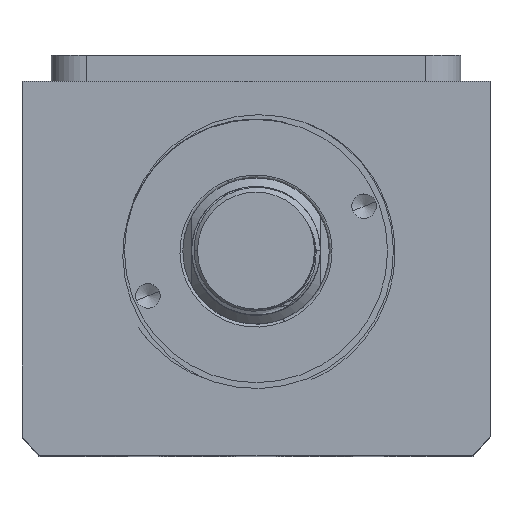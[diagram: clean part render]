
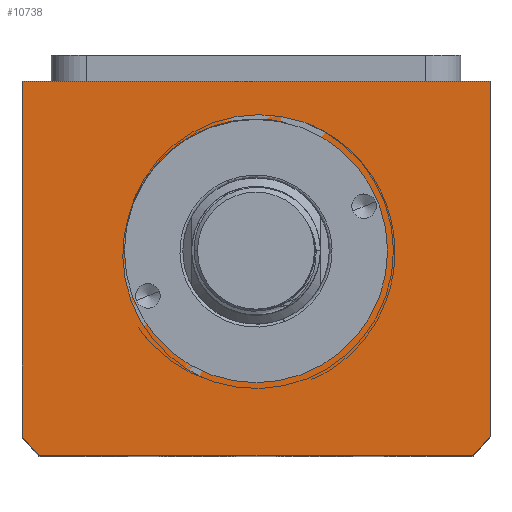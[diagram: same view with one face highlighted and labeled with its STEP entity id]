
A CAD part, top view. The second image highlights one B-rep face of the part: STEP entity #10738.
In plain terms, the highlighted planar face has unit normal (0, 0, 1).
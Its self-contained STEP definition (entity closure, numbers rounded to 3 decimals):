
#79 = CARTESIAN_POINT ( 'NONE',  ( 0., 3., 80. ) ) ;
#308 = EDGE_CURVE ( 'NONE', #5713, #9276, #3082, .T. ) ;
#319 = DIRECTION ( 'NONE',  ( 1., 0., 0. ) ) ;
#440 = FACE_OUTER_BOUND ( 'NONE', #2564, .T. ) ;
#542 = CARTESIAN_POINT ( 'NONE',  ( -40., 32., 80. ) ) ;
#634 = DIRECTION ( 'NONE',  ( -1., 0., 0. ) ) ;
#1139 = CARTESIAN_POINT ( 'NONE',  ( 0., 0., 80. ) ) ;
#1154 = DIRECTION ( 'NONE',  ( 1., 0., 0. ) ) ;
#1502 = DIRECTION ( 'NONE',  ( 0., 0., 1. ) ) ;
#1740 = CARTESIAN_POINT ( 'NONE',  ( 0., 3., 80. ) ) ;
#1769 = VECTOR ( 'NONE', #4944, 1000. ) ;
#1978 = ORIENTED_EDGE ( 'NONE', *, *, #308, .T. ) ;
#2108 = VECTOR ( 'NONE', #634, 1000. ) ;
#2149 = CIRCLE ( 'NONE', #7825, 51. ) ;
#2290 = DIRECTION ( 'NONE',  ( 0., 0., 1. ) ) ;
#2564 = EDGE_LOOP ( 'NONE', ( #4325, #7536, #1978, #7077, #3106, #6479 ) ) ;
#2588 = CIRCLE ( 'NONE', #4735, 22.5 ) ;
#2821 = DIRECTION ( 'NONE',  ( 1., 0., 0. ) ) ;
#2968 = CARTESIAN_POINT ( 'NONE',  ( -40., -32., 80. ) ) ;
#3082 = LINE ( 'NONE', #2968, #8445 ) ;
#3106 = ORIENTED_EDGE ( 'NONE', *, *, #10415, .T. ) ;
#3290 = CARTESIAN_POINT ( 'NONE',  ( -22.5, 3., 80. ) ) ;
#3742 = VERTEX_POINT ( 'NONE', #6067 ) ;
#4325 = ORIENTED_EDGE ( 'NONE', *, *, #6926, .T. ) ;
#4461 = CARTESIAN_POINT ( 'NONE',  ( -37.094, -32., 80. ) ) ;
#4735 = AXIS2_PLACEMENT_3D ( 'NONE', #8712, #2290, #9791 ) ;
#4915 = VERTEX_POINT ( 'NONE', #9721 ) ;
#4929 = VERTEX_POINT ( 'NONE', #3290 ) ;
#4944 = DIRECTION ( 'NONE',  ( 0., 1., 0. ) ) ;
#5138 = CARTESIAN_POINT ( 'NONE',  ( 37.094, -32., 80. ) ) ;
#5337 = VECTOR ( 'NONE', #13929, 1000. ) ;
#5352 = PLANE ( 'NONE',  #8391 ) ;
#5436 = DIRECTION ( 'NONE',  ( 1., 0., 0. ) ) ;
#5486 = VERTEX_POINT ( 'NONE', #7349 ) ;
#5713 = VERTEX_POINT ( 'NONE', #4461 ) ;
#6067 = CARTESIAN_POINT ( 'NONE',  ( 22.5, 3., 80. ) ) ;
#6089 = EDGE_LOOP ( 'NONE', ( #13337, #6544 ) ) ;
#6383 = CARTESIAN_POINT ( 'NONE',  ( -40., 32., 80. ) ) ;
#6479 = ORIENTED_EDGE ( 'NONE', *, *, #10333, .T. ) ;
#6544 = ORIENTED_EDGE ( 'NONE', *, *, #11982, .F. ) ;
#6891 = CARTESIAN_POINT ( 'NONE',  ( -40., -28.639, 80. ) ) ;
#6926 = EDGE_CURVE ( 'NONE', #10372, #13145, #8178, .T. ) ;
#7010 = EDGE_CURVE ( 'NONE', #9276, #4915, #2149, .T. ) ;
#7077 = ORIENTED_EDGE ( 'NONE', *, *, #7010, .T. ) ;
#7121 = LINE ( 'NONE', #12452, #1769 ) ;
#7349 = CARTESIAN_POINT ( 'NONE',  ( 40., 32., 80. ) ) ;
#7536 = ORIENTED_EDGE ( 'NONE', *, *, #13853, .T. ) ;
#7553 = DIRECTION ( 'NONE',  ( 0., 0., 1. ) ) ;
#7825 = AXIS2_PLACEMENT_3D ( 'NONE', #79, #7553, #1154 ) ;
#7907 = CARTESIAN_POINT ( 'NONE',  ( 0., 3., 80. ) ) ;
#8104 = CARTESIAN_POINT ( 'NONE',  ( -40., 32., 80. ) ) ;
#8178 = LINE ( 'NONE', #6383, #5337 ) ;
#8391 = AXIS2_PLACEMENT_3D ( 'NONE', #1139, #11882, #5436 ) ;
#8445 = VECTOR ( 'NONE', #319, 1000. ) ;
#8669 = AXIS2_PLACEMENT_3D ( 'NONE', #1740, #9242, #2821 ) ;
#8712 = CARTESIAN_POINT ( 'NONE',  ( 0., 3., 80. ) ) ;
#9002 = DIRECTION ( 'NONE',  ( 1., 0., 0. ) ) ;
#9242 = DIRECTION ( 'NONE',  ( 0., 0., 1. ) ) ;
#9276 = VERTEX_POINT ( 'NONE', #5138 ) ;
#9721 = CARTESIAN_POINT ( 'NONE',  ( 40., -28.639, 80. ) ) ;
#9791 = DIRECTION ( 'NONE',  ( 1., 0., 0. ) ) ;
#9994 = CIRCLE ( 'NONE', #8669, 22.5 ) ;
#10121 = AXIS2_PLACEMENT_3D ( 'NONE', #7907, #1502, #9002 ) ;
#10333 = EDGE_CURVE ( 'NONE', #5486, #10372, #13189, .T. ) ;
#10372 = VERTEX_POINT ( 'NONE', #542 ) ;
#10409 = EDGE_CURVE ( 'NONE', #3742, #4929, #9994, .T. ) ;
#10415 = EDGE_CURVE ( 'NONE', #4915, #5486, #7121, .T. ) ;
#10738 = ADVANCED_FACE ( 'NONE', ( #11502, #440 ), #5352, .T. ) ;
#11502 = FACE_BOUND ( 'NONE', #6089, .T. ) ;
#11882 = DIRECTION ( 'NONE',  ( 0., 0., 1. ) ) ;
#11982 = EDGE_CURVE ( 'NONE', #4929, #3742, #2588, .T. ) ;
#12452 = CARTESIAN_POINT ( 'NONE',  ( 40., 32., 80. ) ) ;
#13145 = VERTEX_POINT ( 'NONE', #6891 ) ;
#13189 = LINE ( 'NONE', #8104, #2108 ) ;
#13337 = ORIENTED_EDGE ( 'NONE', *, *, #10409, .F. ) ;
#13348 = CIRCLE ( 'NONE', #10121, 51. ) ;
#13853 = EDGE_CURVE ( 'NONE', #13145, #5713, #13348, .T. ) ;
#13929 = DIRECTION ( 'NONE',  ( 0., -1., 0. ) ) ;
